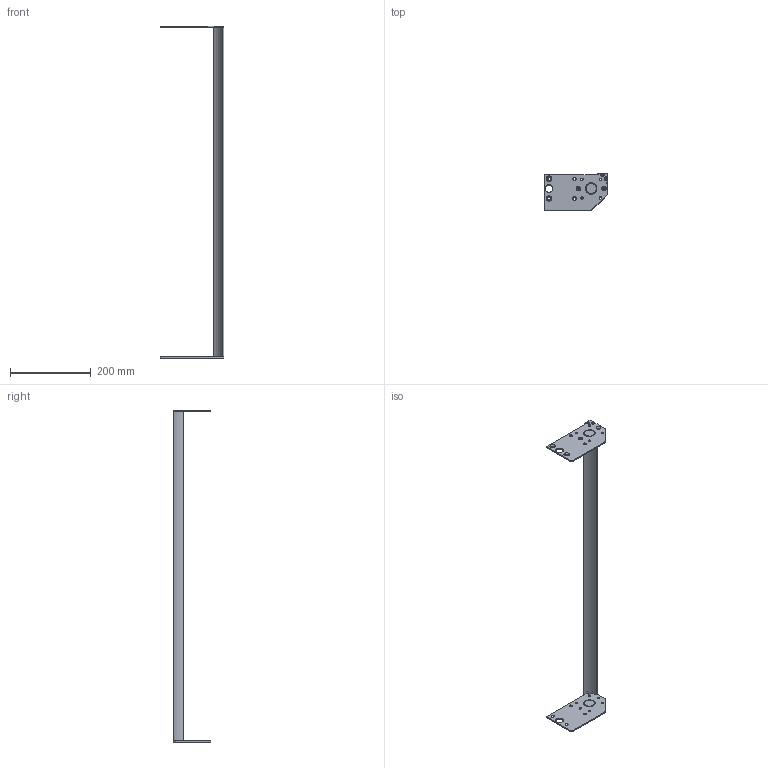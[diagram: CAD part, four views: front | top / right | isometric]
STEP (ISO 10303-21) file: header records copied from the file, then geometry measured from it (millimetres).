
FILE_DESCRIPTION((''),'2;1');
FILE_NAME('351039-32_ASM','2023-03-14T',('jenni.wallner'),(''),'PRO/ENGINEER BY PARAMETRIC TECHNOLOGY CORPORATION, 2012420','PRO/ENGINEER BY PARAMETRIC TECHNOLOGY CORPORATION, 2012420','');
FILE_SCHEMA(('CONFIG_CONTROL_DESIGN'));
Length unit declared in the file: inch
Products named in the file (6): 9304XXM_930410M; 350541; 350539-WW_350539-32; 350540; ASM0001_ASM; 351039-32_ASM
Assembly tree (8 placements, depth 3):
  351039-32_ASM
    ASM0001_ASM
      9304XXM_930410M  x4
      350541
      350539-WW_350539-32
      350540
Bounding box: 157.96 x 92.74 x 824.89 mm (x, y, z)
Volume: 305833.9 mm3; surface area: 146597.8 mm2
Topology: 7 solids, 7 shells, 227 faces, 567 edges, 354 vertices
Faces by surface type: cylinder 93, cone 68, plane 66
Entity records: 5411 total; most frequent: DIRECTION 978, CARTESIAN_POINT 972, ORIENTED_EDGE 852, EDGE_CURVE 426, AXIS2_PLACEMENT_3D 390, VERTEX_POINT 276, EDGE_LOOP 216, CIRCLE 214
